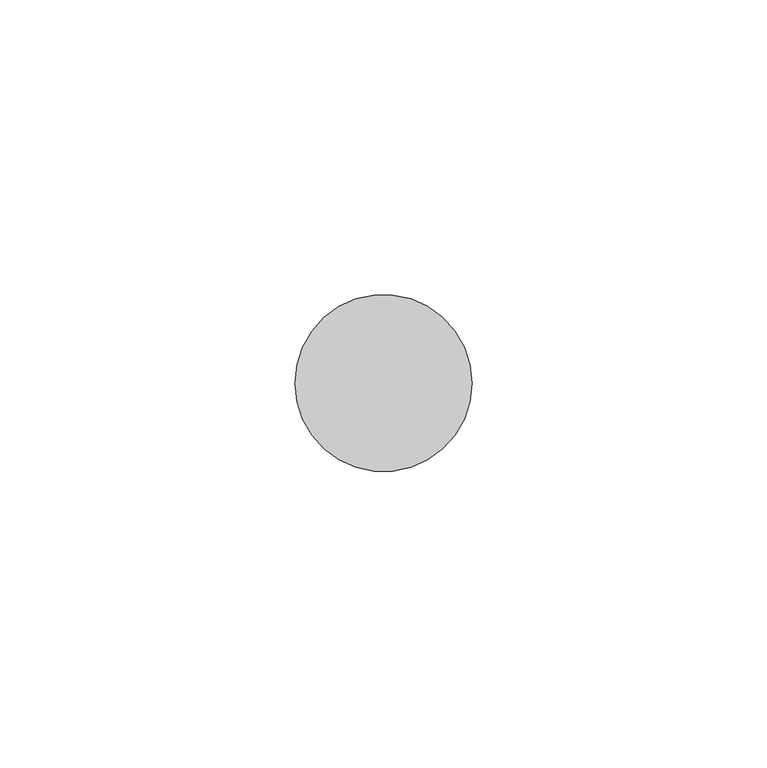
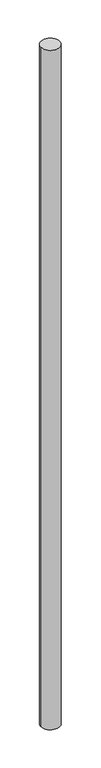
"""IFC4 building model written with IfcOpenShell, lengths in millimetres: proxy geometry, 玄関手摺子3 : 玄関手摺子."""

from ifc_helpers import new_model, si_unit, point, frame, frame_2d, origin, place, context, project, spatial, circle_curve, trimmed, segment, composite_curve, outline, extrude, source, transform, mapped, element, save


def generic_models_b06dacd5(model_context):
    return source(origin(), model_context, "Body", "SweptSolid", [
        extrude(outline(composite_curve([segment(trimmed(circle_curve(frame_2d((5486.0811431, -8207.0139126)), 15.0), [point((5471.0811431, -8207.0139126))], [point((5501.0811431, -8207.0139126))], False, "CARTESIAN"), True, "CONTINUOUS"), segment(trimmed(circle_curve(frame_2d((5486.0811431, -8207.0139126)), 15.0), [point((5501.0811431, -8207.0139126))], [point((5471.0811431, -8207.0139126))], False, "CARTESIAN"), True, "CONTINUOUS")], self_intersect=False)), frame((0.0, 0.0, 280.0), z_axis=(0.0, 0.0, 1.0), x_axis=(1.0, 0.0, 0.0)), (0.0, 0.0, 1.0), 1153.8427553),
    ])


if __name__ == "__main__":
    model = new_model("IFC4")
    model_context = context("Model", 3, world=origin())
    ifc_project = project(units=[si_unit("LENGTHUNIT", "METRE", prefix="MILLI")], contexts=[model_context])
    site = spatial("IfcSite", under=ifc_project)
    building = spatial("IfcBuilding", under=site)
    placement = place(None, origin())
    generic_models_shape = generic_models_b06dacd5(model_context)
    element("IfcBuildingElementProxy", 1, Name="玄関手摺子3 : 玄関手摺子", ObjectType="玄関手摺子3 : 玄関手摺子", at=placement, inside=building, context=model_context, shape_type="MappedRepresentation", body=[
        mapped(generic_models_shape, transform((0.0, 0.0, 0.0), x_axis=(1.0, 0.0, 0.0), y_axis=(0.0, 1.0, 0.0), z_axis=(0.0, 0.0, 1.0))),
    ])
    save(model, "model.ifc")
